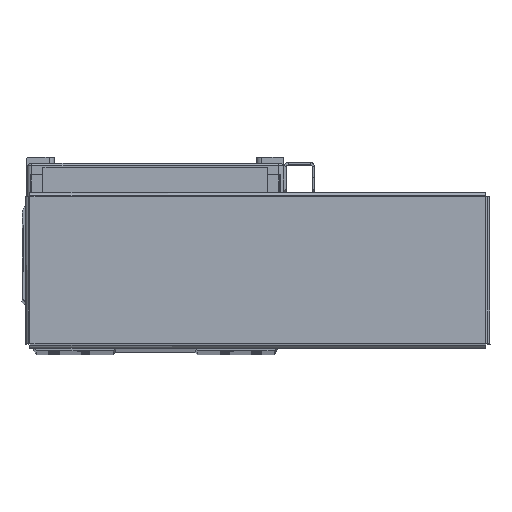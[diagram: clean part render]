
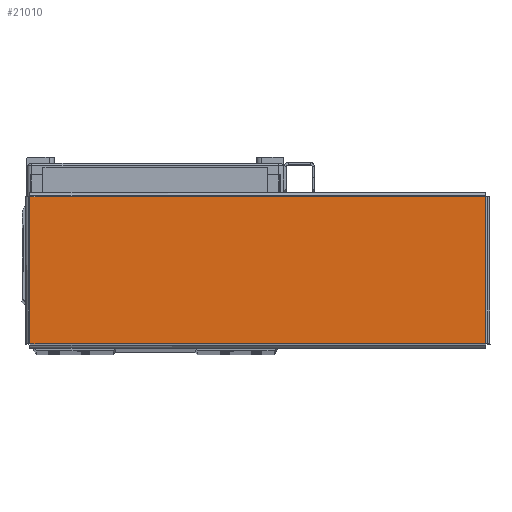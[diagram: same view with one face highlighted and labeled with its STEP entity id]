
A CAD part, top view. The second image highlights one B-rep face of the part: STEP entity #21010.
In plain terms, the highlighted planar face has unit normal (0, 0, 1) as drawn and (0, -1, 0) by its records, which use the part's own axes.
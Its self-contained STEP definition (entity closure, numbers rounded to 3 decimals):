
#14129 = LINE ( 'NONE', #26733, #14130 ) ;
#14130 = VECTOR ( 'NONE', #26753, 1000. ) ;
#14131 = LINE ( 'NONE', #26740, #14176 ) ;
#14133 = LINE ( 'NONE', #26691, #14137 ) ;
#14137 = VECTOR ( 'NONE', #26721, 1000. ) ;
#14176 = VECTOR ( 'NONE', #26757, 1000. ) ;
#14198 = LINE ( 'NONE', #26796, #14199 ) ;
#14199 = VECTOR ( 'NONE', #26781, 1000. ) ;
#21010 = ADVANCED_FACE ( 'NONE', ( #36536 ), #27669, .F. ) ;
#24639 = AXIS2_PLACEMENT_3D ( 'NONE', #27623, #27624, #27619 ) ;
#26691 = CARTESIAN_POINT ( 'NONE',  ( -92.263, -1., 29.793 ) ) ;
#26721 = DIRECTION ( 'NONE',  ( 0., 0., -1. ) ) ;
#26733 = CARTESIAN_POINT ( 'NONE',  ( -92.293, -1., -29.763 ) ) ;
#26740 = CARTESIAN_POINT ( 'NONE',  ( 92.263, -1., -29.793 ) ) ;
#26753 = DIRECTION ( 'NONE',  ( 1., 0., 0. ) ) ;
#26757 = DIRECTION ( 'NONE',  ( 0., 0., 1. ) ) ;
#26781 = DIRECTION ( 'NONE',  ( -1., 0., 0. ) ) ;
#26796 = CARTESIAN_POINT ( 'NONE',  ( 92.293, -1., 29.763 ) ) ;
#27619 = DIRECTION ( 'NONE',  ( 0., 0., 1. ) ) ;
#27623 = CARTESIAN_POINT ( 'NONE',  ( 0., -1., 0. ) ) ;
#27624 = DIRECTION ( 'NONE',  ( 0., 1., 0. ) ) ;
#27669 = PLANE ( 'NONE',  #24639 ) ;
#33862 = EDGE_CURVE ( 'NONE', #58044, #58050, #14133, .T. ) ;
#33894 = EDGE_CURVE ( 'NONE', #58050, #58034, #14129, .T. ) ;
#33896 = EDGE_CURVE ( 'NONE', #58034, #57993, #14131, .T. ) ;
#33911 = EDGE_CURVE ( 'NONE', #57993, #58044, #14198, .T. ) ;
#35363 = ORIENTED_EDGE ( 'NONE', *, *, #33896, .T. ) ;
#35386 = ORIENTED_EDGE ( 'NONE', *, *, #33862, .T. ) ;
#35415 = ORIENTED_EDGE ( 'NONE', *, *, #33894, .T. ) ;
#35429 = ORIENTED_EDGE ( 'NONE', *, *, #33911, .T. ) ;
#36536 = FACE_OUTER_BOUND ( 'NONE', #60554, .T. ) ;
#57993 = VERTEX_POINT ( 'NONE', #62485 ) ;
#58034 = VERTEX_POINT ( 'NONE', #62488 ) ;
#58044 = VERTEX_POINT ( 'NONE', #62493 ) ;
#58050 = VERTEX_POINT ( 'NONE', #62501 ) ;
#60554 = EDGE_LOOP ( 'NONE', ( #35415, #35363, #35429, #35386 ) ) ;
#62485 = CARTESIAN_POINT ( 'NONE',  ( 92.263, -1., 29.763 ) ) ;
#62488 = CARTESIAN_POINT ( 'NONE',  ( 92.263, -1., -29.763 ) ) ;
#62493 = CARTESIAN_POINT ( 'NONE',  ( -92.263, -1., 29.763 ) ) ;
#62501 = CARTESIAN_POINT ( 'NONE',  ( -92.263, -1., -29.763 ) ) ;
